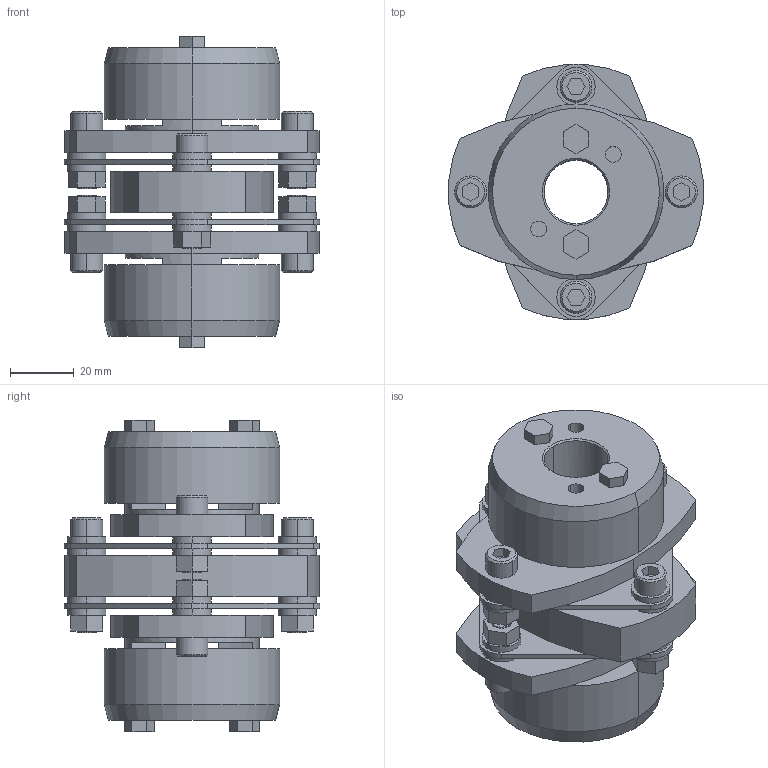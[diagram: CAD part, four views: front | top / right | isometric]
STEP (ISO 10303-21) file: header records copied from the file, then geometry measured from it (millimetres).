
FILE_DESCRIPTION((''),'2;1');
FILE_NAME('LCD-80T7-20×20.stp','2011-09-15T13:29:50',(''),(''),'AutoCAD STEP 2000i','AutoCAD 2000i',', , ');
FILE_SCHEMA(('CONFIG_CONTROL_DESIGN'));
Length unit declared in the file: millimetre
Products named in the file (7): LCD-80T7-19×19; 忣兜1; LC80T7-T019-1; LC80T7-T019; LC80T7-T017-1; LC80T7-T017; LCD80-ITA
Assembly tree (6 placements, depth 2):
  LCD-80T7-19×19
    忣兜1
    LC80T7-T019-1
    LC80T7-T019
    LC80T7-T017-1
    LC80T7-T017
    LCD80-ITA
Bounding box: 80 x 79.95 x 97.5 mm (x, y, z)
Volume: 190148.3 mm3; surface area: 58029.2 mm2
Topology: 1 solids, 1 shells, 306 faces, 744 edges, 488 vertices
Faces by surface type: plane 162, cylinder 120, cone 24
Entity records: 9247 total; most frequent: DIRECTION 1650, CARTESIAN_POINT 1545, ORIENTED_EDGE 1488, EDGE_CURVE 744, AXIS2_PLACEMENT_3D 593, VERTEX_POINT 488, VECTOR 464, LINE 464
